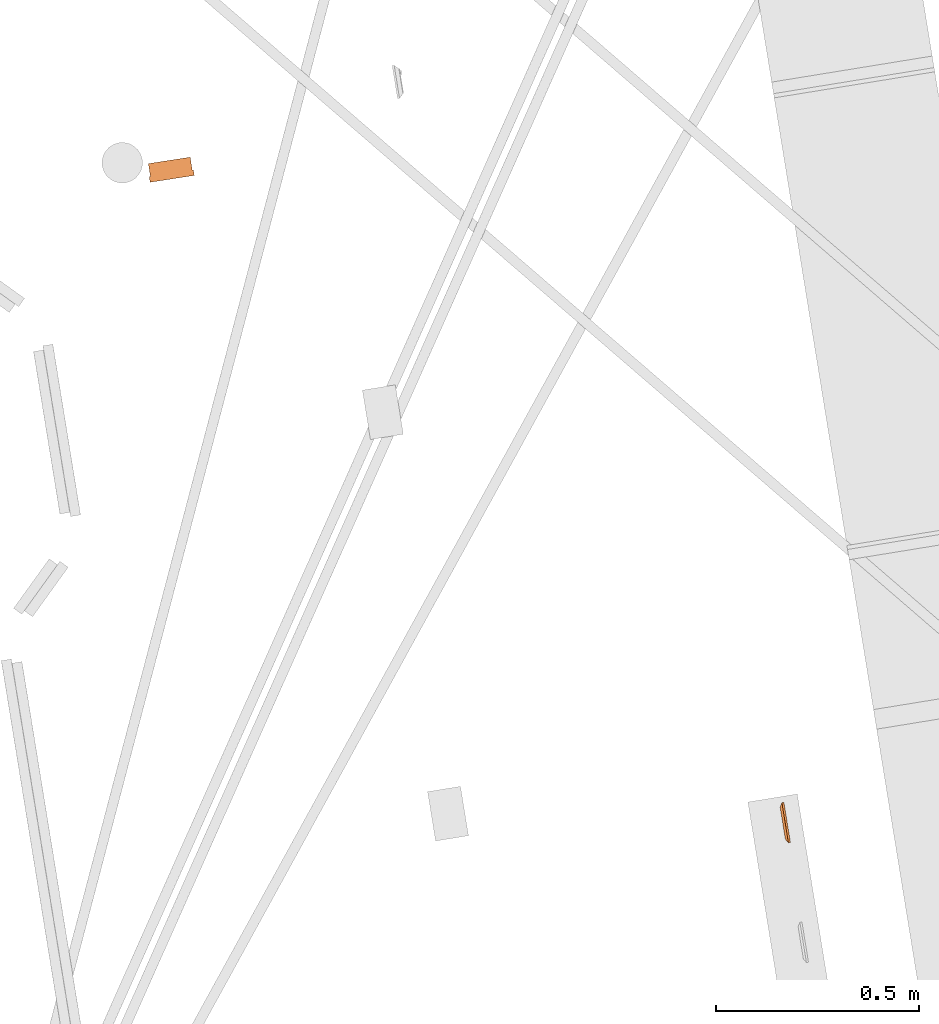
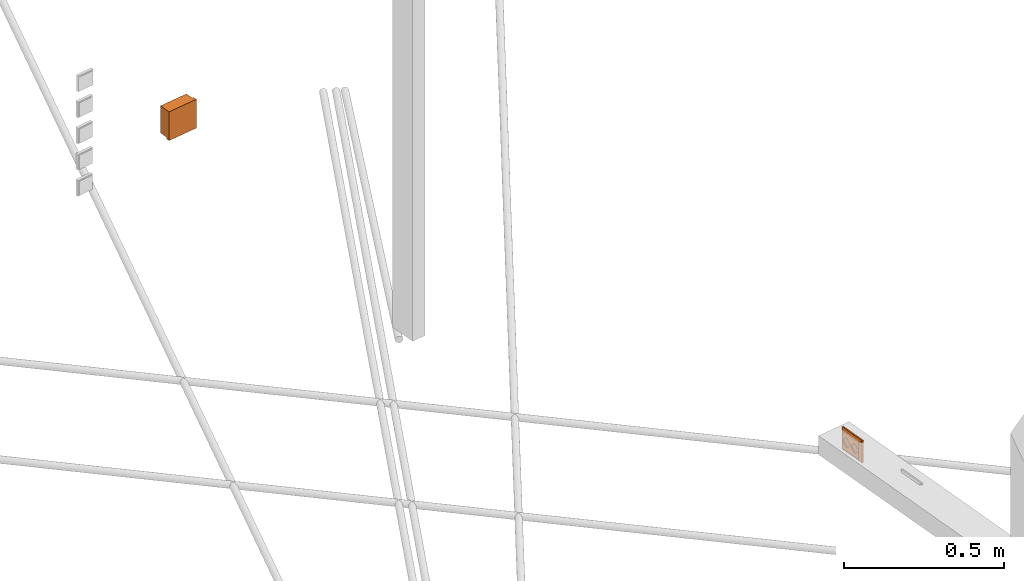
# One storey, part 16 of 33: 2 proxies.
"""IFC2X3 building model written with IfcOpenShell, lengths in millimetres."""

from ifc_helpers import new_model, entity, si_unit, converted_unit, derived_unit, direction, frame, frame_2d, origin, origin_with_axes, origin_2d_with_axis, place, context, subcontext, project, spatial, polyline, circle_curve, parameter, trimmed, segment, composite_curve, rectangle, circle, hollow_circle, outline, extrude, source, transform, mapped, material, type_object, element, save


model = new_model("IFC2X3")

# Units and contexts
plan_context = context("Plan", 3, precision=1e-05, world=origin_with_axes())
model_context = context("Model", 3, precision=0.01, world=origin(), true_north=direction((6.12323399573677e-17, 1.0)))
body_context = subcontext(model_context, "Body", "Model", "MODEL_VIEW")
ifc_project = project(units=[converted_unit("PLANEANGLEUNIT", "DEGREE", entity("IfcPositiveLengthMeasure", 0.0174532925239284), si_unit("PLANEANGLEUNIT", "RADIAN"), dimensions=[0, 0, 0, 0, 0, 0, 0]), si_unit("AREAUNIT", "SQUARE_METRE"), si_unit("LENGTHUNIT", "METRE", prefix="MILLI"), si_unit("MASSUNIT", "GRAM", prefix="KILO"), si_unit("POWERUNIT", "WATT"), si_unit("PRESSUREUNIT", "PASCAL", prefix="KILO"), si_unit("FORCEUNIT", "NEWTON", prefix="KILO"), si_unit("ELECTRICVOLTAGEUNIT", "VOLT"), si_unit("ELECTRICCURRENTUNIT", "AMPERE"), si_unit("THERMODYNAMICTEMPERATUREUNIT", "DEGREE_CELSIUS"), si_unit("TIMEUNIT", "SECOND"), si_unit("VOLUMEUNIT", "CUBIC_METRE"), derived_unit("LINEARVELOCITYUNIT", [(si_unit("LENGTHUNIT", "METRE"), 1), (si_unit("TIMEUNIT", "SECOND"), -1)]), derived_unit("VOLUMETRICFLOWRATEUNIT", [(si_unit("VOLUMEUNIT", "CUBIC_METRE"), 1), (si_unit("TIMEUNIT", "SECOND"), -1)]), derived_unit("THERMALTRANSMITTANCEUNIT", [(si_unit("POWERUNIT", "WATT"), 1), (si_unit("THERMODYNAMICTEMPERATUREUNIT", "KELVIN"), -1), (si_unit("AREAUNIT", "SQUARE_METRE"), -1)]), derived_unit("SOUNDPRESSUREUNIT", [(si_unit("PRESSUREUNIT", "PASCAL"), 1)])], contexts=[model_context, plan_context])

# Site, building, storey
site_placement = place(None, frame((-0.219946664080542, 0.12226179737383, 0.0), z_axis=(0.0, 0.0, 1.0), x_axis=(-0.160236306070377, 0.987078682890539, 0.0)))
site = spatial("IfcSite", under=ifc_project, at=site_placement, Name="Default", CompositionType="ELEMENT")
building_placement = place(site_placement, origin_with_axes())
building = spatial("IfcBuilding", under=site, at=building_placement, CompositionType="ELEMENT")
storey_placement = place(building_placement, frame((0.0, 0.0, 59000.0), z_axis=(0.0, 0.0, 1.0), x_axis=(1.0, 0.0, 0.0)))
storey = spatial("IfcBuildingStorey", under=building, at=storey_placement, Name="Nivå F", CompositionType="ELEMENT", Elevation=59000.0)

# Proxies
ifc_material = material(Name="<Unnamed>")
building_element_proxy_type_1 = type_object("IfcBuildingElementProxyType", Name="Dobbel stikk i kanal 2P+J hor innfelt:RECESSED-SOCKET-2(HOR)", PredefinedType="NOTDEFINED", material=ifc_material)
shared_shape_1 = source(origin(), body_context, "Body", "SweptSolid", [
    extrude(outline(composite_curve([segment(polyline([(-6.66666666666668, -6.66666666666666), (13.3333333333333, -6.66666666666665)]), True, "CONTINUOUS"), segment(trimmed(circle_curve(frame_2d((13.3333333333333, 13.3333333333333), x_axis=(0.0, -1.0)), 20.0), [parameter(270.0)], [parameter(5.08888749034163e-14)], True, "PARAMETER"), False, "CONTINUOUS"), segment(polyline([(-6.66666666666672, 13.3333333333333), (-6.66666666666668, -6.66666666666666)]), True, "CONTINUOUS")], self_intersect=False)), frame((33.3333333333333, 10.9, 13.3933333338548), z_axis=(0.0, 1.0, 0.0), x_axis=(0.0, 0.0, -1.0)), (0.0, 0.0, 1.0), 0.200000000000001),
    extrude(outline(composite_curve([segment(polyline([(-6.66666666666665, -6.66666666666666), (13.3333333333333, -6.66666666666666)]), True, "CONTINUOUS"), segment(trimmed(circle_curve(frame_2d((13.3333333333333, 13.3333333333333), x_axis=(-1.0, 0.0)), 20.0), [parameter(360.0)], [parameter(90.0)], True, "PARAMETER"), False, "CONTINUOUS"), segment(polyline([(-6.66666666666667, 13.3333333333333), (-6.66666666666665, -6.66666666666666)]), True, "CONTINUOUS")], self_intersect=False)), frame((33.3333333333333, 10.9, -13.3233333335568), z_axis=(0.0, 1.0, 0.0), x_axis=(-1.0, 0.0, 0.0)), (0.0, 0.0, 1.0), 0.200000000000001),
    extrude(outline(composite_curve([segment(polyline([(-6.66666666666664, -6.66666666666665), (13.3333333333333, -6.66666666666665)]), True, "CONTINUOUS"), segment(trimmed(circle_curve(frame_2d((13.3333333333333, 13.3333333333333), x_axis=(-1.0, 0.0)), 20.0), [parameter(0.0)], [parameter(89.9999999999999)], True, "PARAMETER"), False, "CONTINUOUS"), segment(polyline([(-6.66666666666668, 13.3333333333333), (-6.66666666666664, -6.66666666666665)]), True, "CONTINUOUS")], self_intersect=False)), frame((6.66666666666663, 10.9, 13.3433333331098), z_axis=(0.0, 1.0, 0.0), x_axis=(1.0, 0.0, 0.0)), (0.0, 0.0, 1.0), 0.200000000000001),
    extrude(outline(composite_curve([segment(polyline([(-6.66666666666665, -6.66666666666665), (13.3333333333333, -6.66666666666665)]), True, "CONTINUOUS"), segment(trimmed(circle_curve(frame_2d((13.3333333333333, 13.3333333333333), x_axis=(-1.0, 0.0)), 20.0), [parameter(0.0)], [parameter(90.0)], True, "PARAMETER"), False, "CONTINUOUS"), segment(polyline([(-6.66666666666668, 13.3333333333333), (-6.66666666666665, -6.66666666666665)]), True, "CONTINUOUS")], self_intersect=False)), frame((33.3333333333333, 10.9, -13.3833333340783), z_axis=(0.0, 1.0, 0.0), x_axis=(-1.0, 0.0, 0.0)), (0.0, 0.0, 1.0), 0.200000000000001),
    extrude(outline(composite_curve([segment(polyline([(-6.66666666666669, -6.66666666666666), (13.3333333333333, -6.66666666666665)]), True, "CONTINUOUS"), segment(trimmed(circle_curve(frame_2d((13.3333333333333, 13.3333333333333), x_axis=(0.0, -1.0)), 20.0), [parameter(270.0)], [parameter(5.08888749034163e-14)], True, "PARAMETER"), False, "CONTINUOUS"), segment(polyline([(-6.66666666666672, 13.3333333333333), (-6.66666666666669, -6.66666666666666)]), True, "CONTINUOUS")], self_intersect=False)), frame((33.3333333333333, 10.9, 13.3333333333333), z_axis=(0.0, 1.0, 0.0), x_axis=(0.0, 0.0, -1.0)), (0.0, 0.0, 1.0), 0.200000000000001),
    extrude(outline(composite_curve([segment(polyline([(-6.66666666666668, -6.66666666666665), (13.3333333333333, -6.66666666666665)]), True, "CONTINUOUS"), segment(trimmed(circle_curve(frame_2d((13.3333333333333, 13.3333333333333), x_axis=(0.0, -1.0)), 20.0), [parameter(270.0)], [parameter(0.0)], True, "PARAMETER"), False, "CONTINUOUS"), segment(polyline([(-6.66666666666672, 13.3333333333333), (-6.66666666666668, -6.66666666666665)]), True, "CONTINUOUS")], self_intersect=False)), frame((6.66666666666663, 10.9, -13.3333333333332), z_axis=(0.0, 1.0, 0.0), x_axis=(0.0, 0.0, 1.0)), (0.0, 0.0, 1.0), 0.200000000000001),
    extrude(outline(composite_curve([segment(polyline([(-6.66666666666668, -6.66666666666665), (13.3333333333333, -6.66666666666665)]), True, "CONTINUOUS"), segment(trimmed(circle_curve(frame_2d((13.3333333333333, 13.3333333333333), x_axis=(0.0, -1.0)), 20.0), [parameter(270.0)], [parameter(0.0)], True, "PARAMETER"), False, "CONTINUOUS"), segment(polyline([(-6.66666666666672, 13.3333333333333), (-6.66666666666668, -6.66666666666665)]), True, "CONTINUOUS")], self_intersect=False)), frame((-6.66666666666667, 10.9, 13.3933333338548), z_axis=(0.0, 1.0, 0.0), x_axis=(0.0, 0.0, -1.0)), (0.0, 0.0, 1.0), 0.200000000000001),
    extrude(outline(composite_curve([segment(polyline([(-6.66666666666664, -6.66666666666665), (13.3333333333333, -6.66666666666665)]), True, "CONTINUOUS"), segment(trimmed(circle_curve(frame_2d((13.3333333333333, 13.3333333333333), x_axis=(-1.0, 0.0)), 20.0), [parameter(0.0)], [parameter(90.0)], True, "PARAMETER"), False, "CONTINUOUS"), segment(polyline([(-6.66666666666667, 13.3333333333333), (-6.66666666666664, -6.66666666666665)]), True, "CONTINUOUS")], self_intersect=False)), frame((-6.66666666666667, 10.9, -13.3233333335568), z_axis=(0.0, 1.0, 0.0), x_axis=(-1.0, 0.0, 0.0)), (0.0, 0.0, 1.0), 0.200000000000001),
    extrude(outline(composite_curve([segment(polyline([(-6.66666666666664, -6.66666666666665), (13.3333333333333, -6.66666666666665)]), True, "CONTINUOUS"), segment(trimmed(circle_curve(frame_2d((13.3333333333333, 13.3333333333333), x_axis=(-1.0, 0.0)), 20.0), [parameter(0.0)], [parameter(89.9999999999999)], True, "PARAMETER"), False, "CONTINUOUS"), segment(polyline([(-6.66666666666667, 13.3333333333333), (-6.66666666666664, -6.66666666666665)]), True, "CONTINUOUS")], self_intersect=False)), frame((-33.3333333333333, 10.9, 13.3433333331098), z_axis=(0.0, 1.0, 0.0), x_axis=(1.0, 0.0, 0.0)), (0.0, 0.0, 1.0), 0.200000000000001),
    extrude(outline(composite_curve([segment(polyline([(-6.66666666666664, -6.66666666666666), (13.3333333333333, -6.66666666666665)]), True, "CONTINUOUS"), segment(trimmed(circle_curve(frame_2d((13.3333333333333, 13.3333333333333), x_axis=(-1.0, 0.0)), 20.0), [parameter(0.0)], [parameter(90.0)], True, "PARAMETER"), False, "CONTINUOUS"), segment(polyline([(-6.66666666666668, 13.3333333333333), (-6.66666666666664, -6.66666666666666)]), True, "CONTINUOUS")], self_intersect=False)), frame((-6.66666666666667, 10.9, -13.3833333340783), z_axis=(0.0, 1.0, 0.0), x_axis=(-1.0, 0.0, 0.0)), (0.0, 0.0, 1.0), 0.200000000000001),
    extrude(outline(composite_curve([segment(polyline([(-6.66666666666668, -6.66666666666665), (13.3333333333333, -6.66666666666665)]), True, "CONTINUOUS"), segment(trimmed(circle_curve(frame_2d((13.3333333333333, 13.3333333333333), x_axis=(0.0, -1.0)), 20.0), [parameter(270.0)], [parameter(0.0)], True, "PARAMETER"), False, "CONTINUOUS"), segment(polyline([(-6.66666666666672, 13.3333333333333), (-6.66666666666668, -6.66666666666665)]), True, "CONTINUOUS")], self_intersect=False)), frame((-6.66666666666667, 10.9, 13.3333333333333), z_axis=(0.0, 1.0, 0.0), x_axis=(0.0, 0.0, -1.0)), (0.0, 0.0, 1.0), 0.200000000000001),
    extrude(outline(composite_curve([segment(polyline([(-6.66666666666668, -6.66666666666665), (13.3333333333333, -6.66666666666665)]), True, "CONTINUOUS"), segment(trimmed(circle_curve(frame_2d((13.3333333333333, 13.3333333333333), x_axis=(0.0, -1.0)), 20.0), [parameter(270.0)], [parameter(0.0)], True, "PARAMETER"), False, "CONTINUOUS"), segment(polyline([(-6.66666666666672, 13.3333333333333), (-6.66666666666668, -6.66666666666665)]), True, "CONTINUOUS")], self_intersect=False)), frame((-33.3333333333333, 10.9, -13.3333333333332), z_axis=(0.0, 1.0, 0.0), x_axis=(0.0, 0.0, 1.0)), (0.0, 0.0, 1.0), 0.200000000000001),
    extrude(rectangle(XDim=0.200000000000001, YDim=40.0, at=origin_2d_with_axis()), frame((20.0, 11.0, 20.0099999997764), z_axis=(0.0, 0.0, 1.0), x_axis=(0.0, -1.0, 0.0)), (0.0, 0.0, 1.0), 12.5),
    extrude(rectangle(XDim=0.200000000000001, YDim=40.0, at=origin_2d_with_axis()), frame((20.0, 11.0, -32.4999999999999), z_axis=(0.0, 0.0, 1.0), x_axis=(0.0, 1.0, 0.0)), (0.0, 0.0, 1.0), 12.5),
    extrude(rectangle(XDim=0.200000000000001, YDim=40.0, at=origin_2d_with_axis()), frame((-20.0, 11.0, 20.0099999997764), z_axis=(0.0, 0.0, 1.0), x_axis=(0.0, -1.0, 0.0)), (0.0, 0.0, 1.0), 12.5),
    extrude(rectangle(XDim=0.200000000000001, YDim=40.0, at=origin_2d_with_axis()), frame((-20.0, 11.0, -32.4999999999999), z_axis=(0.0, 0.0, 1.0), x_axis=(0.0, 1.0, 0.0)), (0.0, 0.0, 1.0), 12.5),
    extrude(outline(polyline([(21.6113592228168, -34.1606374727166), (36.973650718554, -34.1606374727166), (-28.120804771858, 41.7518902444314), (-30.4642051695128, 26.5693847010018), (21.6113592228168, -34.1606374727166)])), frame((0.0, 7.91425070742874, -37.4485504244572), z_axis=(0.0, 0.857492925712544, -0.514495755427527), x_axis=(0.65094455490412, -0.390566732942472, -0.650944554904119)), (0.0, 0.0, 1.0), 0.2),
    extrude(outline(polyline([(-40.0, -5.83095189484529), (40.0, -5.83095189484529), (50.0, 5.83095189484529), (-50.0, 5.8309518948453), (-40.0, -5.83095189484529)])), frame((0.0, 7.91425070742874, 37.4485504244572), z_axis=(0.0, 0.857492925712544, 0.514495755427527), x_axis=(-1.0, 0.0, 0.0)), (0.0, 0.0, 1.0), 0.199999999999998),
    extrude(outline(polyline([(-32.0915665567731, -28.4671978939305), (-16.7292750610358, -28.4671978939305), (25.5821210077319, 20.8759451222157), (23.238720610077, 36.0584506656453), (-32.0915665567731, -28.4671978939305)])), frame((44.9485504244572, 7.91425070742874, 0.0), z_axis=(0.514495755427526, 0.857492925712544, 0.0), x_axis=(-0.650944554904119, 0.390566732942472, 0.650944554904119)), (0.0, 0.0, 1.0), 0.200000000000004),
    extrude(outline(polyline([(-42.5, -5.8309518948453), (42.5, -5.8309518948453), (32.5, 5.83095189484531), (-32.5, 5.8309518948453), (-42.5, -5.8309518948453)])), frame((-44.9485504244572, 7.91425070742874, 0.0), z_axis=(-0.514495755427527, 0.857492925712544, 0.0), x_axis=(0.0, 0.0, 1.0)), (0.0, 0.0, 1.0), 0.2),
    extrude(circle(Radius=2.5, at=frame_2d((0.0, -4.22994972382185e-15), x_axis=(1.0, 0.0))), frame((30.0, 5.4, 0.0), z_axis=(0.0, 1.0, 0.0), x_axis=(0.0, 0.0, 1.0)), (0.0, 0.0, 1.0), 0.2),
    extrude(circle(Radius=2.5, at=frame_2d((0.0, -4.22994972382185e-15), x_axis=(1.0, 0.0))), frame((10.0, 5.4, 0.0), z_axis=(0.0, 1.0, 0.0), x_axis=(0.0, 0.0, 1.0)), (0.0, 0.0, 1.0), 0.2),
    extrude(circle(Radius=2.5, at=frame_2d((0.0, -4.22994972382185e-15), x_axis=(1.0, 0.0))), frame((-10.0, 5.4, 0.0), z_axis=(0.0, 1.0, 0.0), x_axis=(0.0, 0.0, 1.0)), (0.0, 0.0, 1.0), 0.2),
    extrude(circle(Radius=2.5, at=frame_2d((0.0, -4.22994972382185e-15), x_axis=(1.0, 0.0))), frame((-30.0, 5.4, 0.0), z_axis=(0.0, 1.0, 0.0), x_axis=(0.0, 0.0, 1.0)), (0.0, 0.0, 1.0), 0.2),
    extrude(circle(Radius=20.0, at=frame_2d((0.0, -3.38395977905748e-14), x_axis=(1.0, 0.0))), frame((20.0, 4.89999999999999, 0.0), z_axis=(0.0, 1.0, 0.0), x_axis=(0.0, 0.0, 1.0)), (0.0, 0.0, 1.0), 0.2),
    extrude(circle(Radius=20.0, at=frame_2d((0.0, -3.38395977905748e-14), x_axis=(1.0, 0.0))), frame((-20.0, 4.89999999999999, 0.0), z_axis=(0.0, 1.0, 0.0), x_axis=(0.0, 0.0, 1.0)), (0.0, 0.0, 1.0), 0.2),
    extrude(rectangle(XDim=99.9999999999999, YDim=4.99999999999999, at=origin_2d_with_axis()), frame((0.0, 2.5, -42.5)), (0.0, 0.0, 1.0), 84.9999999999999),
    extrude(hollow_circle(Radius=20.0, WallThickness=0.199999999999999, at=frame_2d((0.0, -3.38395977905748e-14), x_axis=(1.0, 0.0))), frame((20.0, 5.0, 0.0), z_axis=(0.0, 1.0, 0.0), x_axis=(0.0, 0.0, 1.0)), (0.0, 0.0, 1.0), 5.99999999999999),
    extrude(hollow_circle(Radius=20.0, WallThickness=0.199999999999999, at=frame_2d((0.0, -3.38395977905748e-14), x_axis=(1.0, 0.0))), frame((-20.0, 5.0, 0.0), z_axis=(0.0, 1.0, 0.0), x_axis=(0.0, 0.0, 1.0)), (0.0, 0.0, 1.0), 5.99999999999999),
])
proxy_1_placement = place(storey_placement, frame((771957.581788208, -503783.613755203, 790.0), z_axis=(0.0, 0.0, 1.0), x_axis=(1.0, 0.0, 0.0)))
element("IfcBuildingElementProxy", 1, at=proxy_1_placement, inside=storey, type_object=building_element_proxy_type_1, material=ifc_material, Name="Dobbel stikk i kanal 2P+J hor innfelt:RECESSED-SOCKET-2(HOR)", ObjectType="Dobbel stikk i kanal 2P+J hor innfelt:RECESSED-SOCKET-2(HOR)", context=body_context, shape_type="MappedRepresentation", body=[
    mapped(shared_shape_1, transform((0.0, 0.0, 0.0), scale=1.0)),
])
building_element_proxy_type_2 = type_object("IfcBuildingElementProxyType", Name="1612510-0001:Junction box1", PredefinedType="NOTDEFINED", material=ifc_material)
shared_shape_2 = source(origin(), body_context, "Body", "SweptSolid", [
    extrude(rectangle(XDim=110.0, YDim=13.8000001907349, at=frame_2d((0.0, 2.22044604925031e-15), x_axis=(1.0, 0.0))), frame((0.0, 39.1000008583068, -55.0)), (0.0, 0.0, 1.0), 110.0),
    extrude(rectangle(XDim=104.0, YDim=32.2000007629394, at=origin_2d_with_axis()), frame((0.0, 16.1000003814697, -52.0)), (0.0, 0.0, 1.0), 104.0),
])
proxy_2_placement = place(storey_placement, frame((773807.619644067, -502544.971004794, 1600.0), z_axis=(0.0, 0.0, 1.0), x_axis=(0.00702845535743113, 0.999975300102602, 0.0)))
element("IfcBuildingElementProxy", 2, at=proxy_2_placement, inside=storey, type_object=building_element_proxy_type_2, material=ifc_material, Name="1612510-0001:Junction box1", ObjectType="1612510-0001:Junction box1", context=body_context, shape_type="MappedRepresentation", body=[
    mapped(shared_shape_2, transform((0.0, 0.0, 0.0), scale=1.0)),
])

save(model, "model.ifc")
